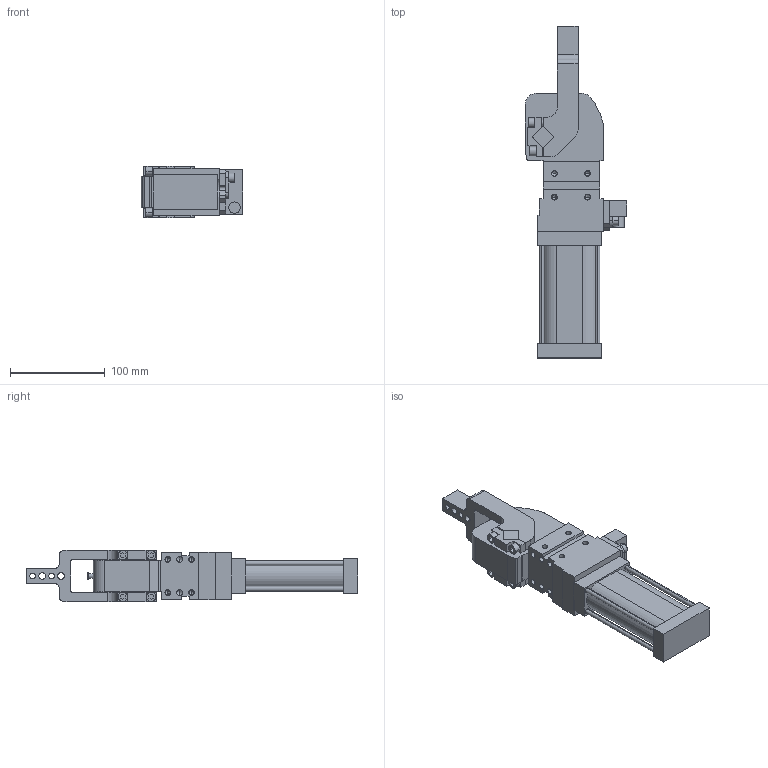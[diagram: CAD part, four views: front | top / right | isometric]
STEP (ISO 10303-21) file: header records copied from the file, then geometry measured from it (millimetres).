
FILE_DESCRIPTION (( 'STEP AP214' ), '1' );
FILE_NAME ('cpl40h1csi1g_45.STEP', '2021-05-19T10:27:57', ( '' ), ( '' ), 'SwSTEP 2.0', 'SolidWorks 2021', '' );
FILE_SCHEMA (( 'AUTOMOTIVE_DESIGN' ));
Length unit declared in the file: millimetre
Products named in the file (5): piastra_blocchetto_cpl40; leva_v1c_cpl40; meccanica_cpl40; cpl40h1csi1g_45; blocchetto_VEP_0_cpl40
Assembly tree (4 placements, depth 2):
  cpl40h1csi1g_45
    meccanica_cpl40
    leva_v1c_cpl40
    blocchetto_VEP_0_cpl40
    piastra_blocchetto_cpl40
Bounding box: 107.5 x 350 x 54 mm (x, y, z)
Volume: 772629.8 mm3; surface area: 118076.1 mm2
Topology: 5 solids, 5 shells, 442 faces, 1130 edges, 709 vertices
Faces by surface type: plane 246, cylinder 148, cone 48
Entity records: 14617 total; most frequent: DIRECTION 2308, CARTESIAN_POINT 2242, ORIENTED_EDGE 2168, EDGE_CURVE 1084, AXIS2_PLACEMENT_3D 775, VECTOR 758, LINE 758, VERTEX_POINT 709
